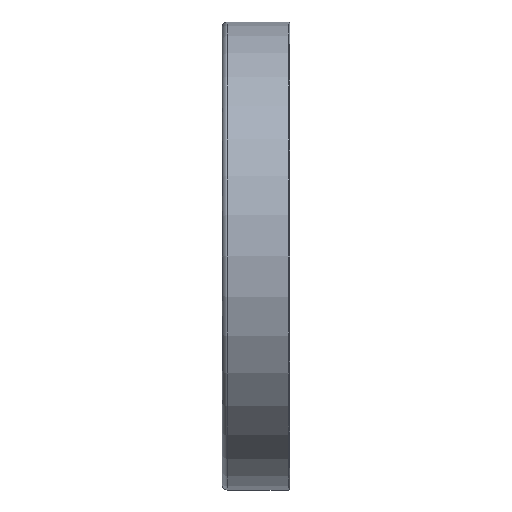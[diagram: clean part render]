
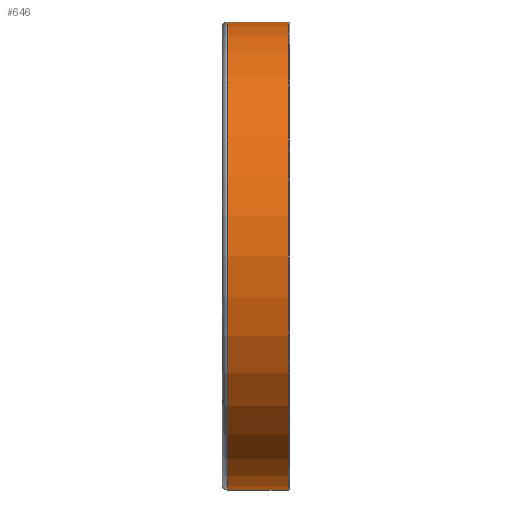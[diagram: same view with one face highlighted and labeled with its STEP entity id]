
A CAD part, front view. The second image highlights one B-rep face of the part: STEP entity #646.
In plain terms, the highlighted cylindrical face has radius 45 mm (diameter 90 mm), a full revolution.
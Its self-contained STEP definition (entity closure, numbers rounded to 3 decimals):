
#185=CYLINDRICAL_SURFACE('',#1030,45.);
#309=EDGE_LOOP('',(#445));
#310=EDGE_LOOP('',(#446));
#445=ORIENTED_EDGE('',*,*,#521,.F.);
#446=ORIENTED_EDGE('',*,*,#519,.T.);
#519=EDGE_CURVE('',#945,#945,#539,.T.);
#521=EDGE_CURVE('',#947,#947,#541,.T.);
#539=CIRCLE('',#1026,45.);
#541=CIRCLE('',#1029,45.);
#646=ADVANCED_FACE('',(#823,#824),#185,.T.);
#823=FACE_BOUND('',#309,.T.);
#824=FACE_BOUND('',#310,.T.);
#945=VERTEX_POINT('',#4146);
#947=VERTEX_POINT('',#4151);
#1026=AXIS2_PLACEMENT_3D('',#4145,#1172,#1173);
#1029=AXIS2_PLACEMENT_3D('',#4150,#1178,#1179);
#1030=AXIS2_PLACEMENT_3D('',#4152,#1180,#1181);
#1172=DIRECTION('',(1.,0.,0.));
#1173=DIRECTION('',(0.,0.,-1.));
#1178=DIRECTION('',(1.,0.,0.));
#1179=DIRECTION('',(0.,0.,-1.));
#1180=DIRECTION('',(1.,0.,0.));
#1181=DIRECTION('',(0.,0.,-1.));
#4145=CARTESIAN_POINT('',(-5.5,0.,0.));
#4146=CARTESIAN_POINT('',(-5.5,0.,-45.));
#4150=CARTESIAN_POINT('',(6.2,0.,0.));
#4151=CARTESIAN_POINT('',(6.2,0.,-45.));
#4152=CARTESIAN_POINT('',(-5.5,0.,0.));
